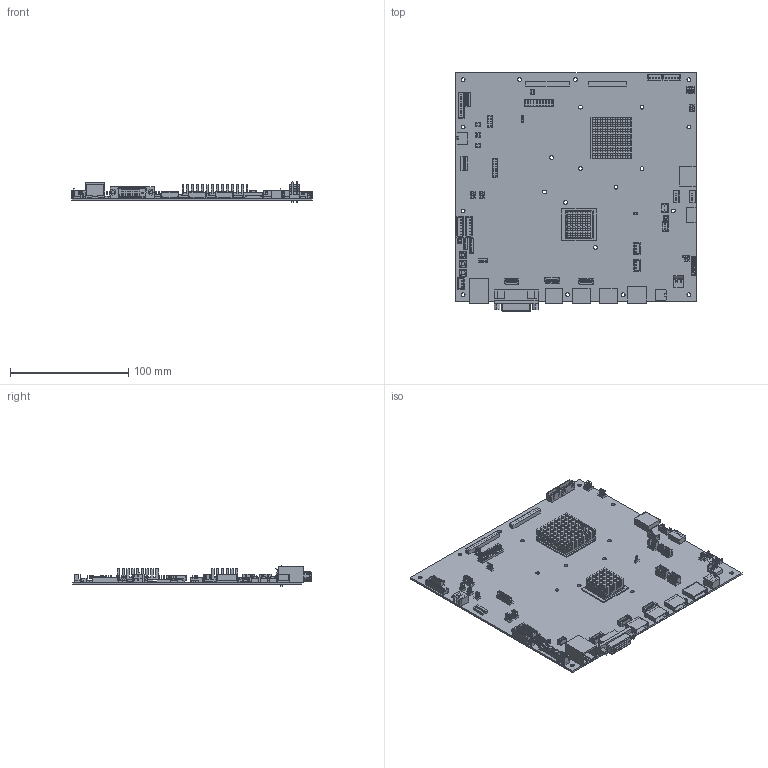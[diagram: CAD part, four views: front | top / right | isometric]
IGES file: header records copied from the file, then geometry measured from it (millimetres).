
Start section: SolidWorks IGES file using analytic representation for surfaces
Global section: file name: C:\Documents and Settings\jojocheung\Desktop\SVX-4096-120 3D drawing 31Oct2016\SVX-4096-120.IGS; native system: SolidWorks 2011; preprocessor: SolidWorks 2011; author: jojocheung; date: 161031.170015; units: millimetre
Bounding box: 203.2 x 202 x 17.6 mm (x, y, z)
Surface area: 125461.1 mm2 (no closed solid volume)
Topology: 0 solids, 0 shells, 3159 faces, 17216 edges, 17212 vertices
Faces by surface type: bspline 3068, revolution 91
